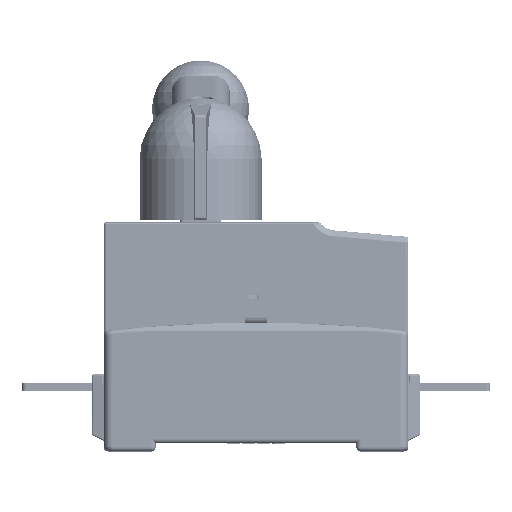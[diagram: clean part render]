
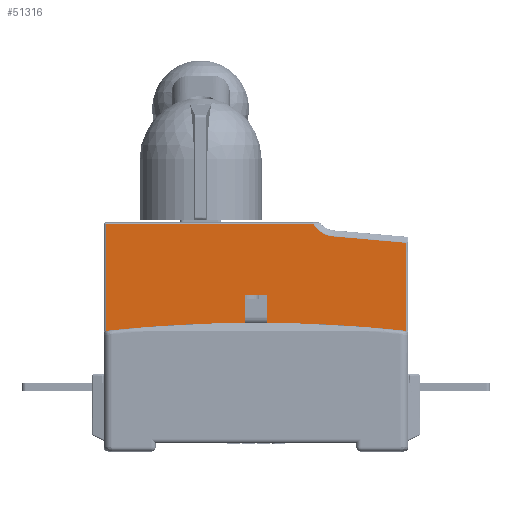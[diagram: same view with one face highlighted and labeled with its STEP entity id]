
A CAD part, left-side view. The second image highlights one B-rep face of the part: STEP entity #51316.
In plain terms, the highlighted planar face has unit normal (-1, 0, 0).
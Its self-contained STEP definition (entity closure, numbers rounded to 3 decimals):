
#46074=DIRECTION('',(0.,0.,-1.));
#46075=VECTOR('',#46074,40.5);
#46076=CARTESIAN_POINT('',(-37.5,0.,-13.5));
#46077=LINE('',#46076,#46075);
#46158=DIRECTION('',(0.,1.,0.));
#46159=VECTOR('',#46158,38.7);
#46160=CARTESIAN_POINT('',(-37.5,0.,-54.));
#46161=LINE('',#46160,#46159);
#46172=CARTESIAN_POINT('',(-37.5,43.332,28.65));
#46173=DIRECTION('',(1.,0.,0.));
#46174=DIRECTION('',(0.,-0.996,-0.087));
#46175=AXIS2_PLACEMENT_3D('',#46172,#46173,#46174);
#46180=DIRECTION('',(0.,0.087,-0.996));
#46181=VECTOR('',#46180,26.252);
#46182=CARTESIAN_POINT('',(-37.5,31.872,54.));
#46183=LINE('',#46182,#46181);
#46187=DIRECTION('',(0.,1.,0.));
#46188=VECTOR('',#46187,10.6);
#46189=CARTESIAN_POINT('',(-37.5,2.4,-4.));
#46190=LINE('',#46189,#46188);
#46194=DIRECTION('',(0.,1.,0.));
#46195=VECTOR('',#46194,2.4);
#46196=CARTESIAN_POINT('',(-37.5,0.,-13.5));
#46197=LINE('',#46196,#46195);
#46414=DIRECTION('',(0.,0.,1.));
#46415=VECTOR('',#46414,74.693);
#46416=CARTESIAN_POINT('',(-37.5,38.7,-54.));
#46417=LINE('',#46416,#46415);
#46845=DIRECTION('',(0.,0.,-1.));
#46846=VECTOR('',#46845,40.5);
#46847=CARTESIAN_POINT('',(-37.5,0.,54.));
#46848=LINE('',#46847,#46846);
#47169=DIRECTION('',(0.,1.,0.));
#47170=VECTOR('',#47169,10.6);
#47171=CARTESIAN_POINT('',(-37.5,2.4,4.));
#47172=LINE('',#47171,#47170);
#47176=DIRECTION('',(0.,0.,-1.));
#47177=VECTOR('',#47176,9.5);
#47178=CARTESIAN_POINT('',(-37.5,2.4,13.5));
#47179=LINE('',#47178,#47177);
#47197=DIRECTION('',(0.,1.,0.));
#47198=VECTOR('',#47197,2.4);
#47199=CARTESIAN_POINT('',(-37.5,0.,13.5));
#47200=LINE('',#47199,#47198);
#47450=DIRECTION('',(0.,0.,-1.));
#47451=VECTOR('',#47450,9.5);
#47452=CARTESIAN_POINT('',(-37.5,2.4,-4.));
#47453=LINE('',#47452,#47451);
#47492=DIRECTION('',(0.,0.,-1.));
#47493=VECTOR('',#47492,8.);
#47494=CARTESIAN_POINT('',(-37.5,13.,4.));
#47495=LINE('',#47494,#47493);
#47527=DIRECTION('',(0.,-1.,0.));
#47528=VECTOR('',#47527,31.872);
#47529=CARTESIAN_POINT('',(-37.5,31.872,54.));
#47530=LINE('',#47529,#47528);
#47537=CARTESIAN_POINT('',(-37.5,31.872,54.));
#49657=CARTESIAN_POINT('',(-37.5,2.4,13.5));
#49658=CARTESIAN_POINT('',(-37.5,2.4,4.));
#49659=VERTEX_POINT('',#49657);
#49660=VERTEX_POINT('',#49658);
#49707=CARTESIAN_POINT('',(-37.5,2.4,-4.));
#49708=CARTESIAN_POINT('',(-37.5,13.,-4.));
#49709=VERTEX_POINT('',#49707);
#49710=VERTEX_POINT('',#49708);
#49720=CARTESIAN_POINT('',(-37.5,38.7,20.693));
#49722=VERTEX_POINT('',#49720);
#49853=VERTEX_POINT('',#47537);
#49920=CARTESIAN_POINT('',(-37.5,38.7,-54.));
#49921=VERTEX_POINT('',#49920);
#49969=CARTESIAN_POINT('',(-37.5,13.,4.));
#49971=VERTEX_POINT('',#49969);
#50056=CARTESIAN_POINT('',(-37.5,0.,54.));
#50057=VERTEX_POINT('',#50056);
#50326=CARTESIAN_POINT('',(-37.5,0.,-13.5));
#50327=CARTESIAN_POINT('',(-37.5,2.4,-13.5));
#50328=VERTEX_POINT('',#50326);
#50329=VERTEX_POINT('',#50327);
#50352=CARTESIAN_POINT('',(-37.5,0.,13.5));
#50353=VERTEX_POINT('',#50352);
#50377=CARTESIAN_POINT('',(-37.5,0.,-54.));
#50378=VERTEX_POINT('',#50377);
#50437=CARTESIAN_POINT('',(-37.5,34.16,27.848));
#50438=VERTEX_POINT('',#50437);
#51283=CARTESIAN_POINT('',(-37.5,39.2,55.));
#51284=DIRECTION('',(1.,0.,0.));
#51285=DIRECTION('',(0.,0.,-1.));
#51286=AXIS2_PLACEMENT_3D('',#51283,#51284,#51285);
#51287=PLANE('',#51286);
#51289=ORIENTED_EDGE('',*,*,#51288,.F.);
#51291=ORIENTED_EDGE('',*,*,#51290,.F.);
#51293=ORIENTED_EDGE('',*,*,#51292,.T.);
#51295=ORIENTED_EDGE('',*,*,#51294,.T.);
#51297=ORIENTED_EDGE('',*,*,#51296,.T.);
#51299=ORIENTED_EDGE('',*,*,#51298,.T.);
#51301=ORIENTED_EDGE('',*,*,#51300,.T.);
#51303=ORIENTED_EDGE('',*,*,#51302,.T.);
#51305=ORIENTED_EDGE('',*,*,#51304,.F.);
#51307=ORIENTED_EDGE('',*,*,#51306,.T.);
#51309=ORIENTED_EDGE('',*,*,#51308,.F.);
#51310=ORIENTED_EDGE('',*,*,#51213,.T.);
#51311=ORIENTED_EDGE('',*,*,#51274,.T.);
#51313=ORIENTED_EDGE('',*,*,#51312,.T.);
#51314=EDGE_LOOP('',(#51289,#51291,#51293,#51295,#51297,#51299,#51301,#51303,
#51305,#51307,#51309,#51310,#51311,#51313));
#51315=FACE_OUTER_BOUND('',#51314,.F.);
#46176=CIRCLE('',#46175,9.207);
#51213=EDGE_CURVE('',#50328,#50378,#46077,.T.);
#51274=EDGE_CURVE('',#50378,#49921,#46161,.T.);
#51288=EDGE_CURVE('',#50438,#49722,#46176,.T.);
#51290=EDGE_CURVE('',#49853,#50438,#46183,.T.);
#51292=EDGE_CURVE('',#49853,#50057,#47530,.T.);
#51294=EDGE_CURVE('',#50057,#50353,#46848,.T.);
#51296=EDGE_CURVE('',#50353,#49659,#47200,.T.);
#51298=EDGE_CURVE('',#49659,#49660,#47179,.T.);
#51300=EDGE_CURVE('',#49660,#49971,#47172,.T.);
#51302=EDGE_CURVE('',#49971,#49710,#47495,.T.);
#51304=EDGE_CURVE('',#49709,#49710,#46190,.T.);
#51306=EDGE_CURVE('',#49709,#50329,#47453,.T.);
#51308=EDGE_CURVE('',#50328,#50329,#46197,.T.);
#51312=EDGE_CURVE('',#49921,#49722,#46417,.T.);
#51316=ADVANCED_FACE('',(#51315),#51287,.F.);
